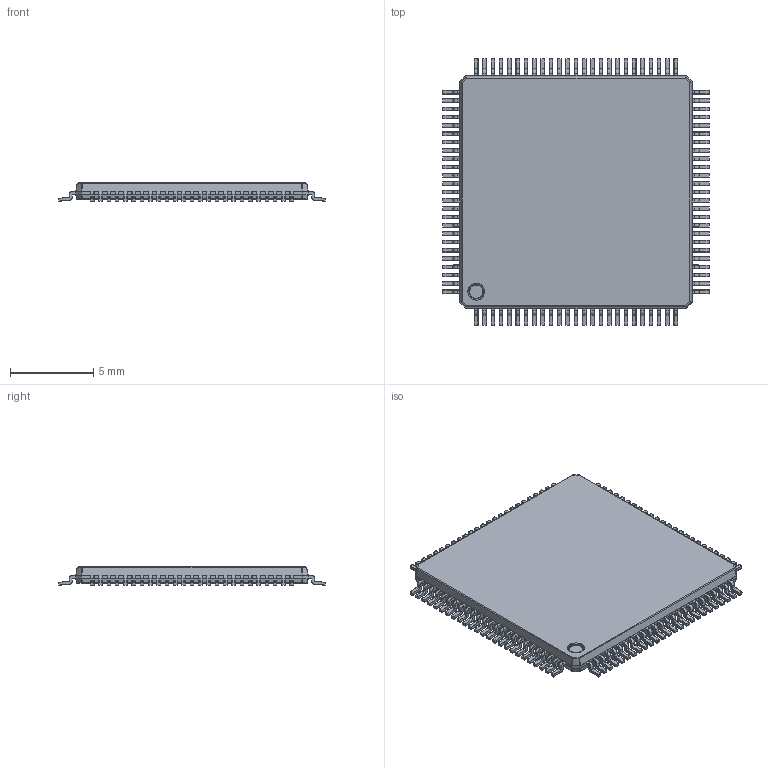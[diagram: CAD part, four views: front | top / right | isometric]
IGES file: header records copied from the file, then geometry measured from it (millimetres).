
Global section: file name: C:\Users\Mart\Documents\Libraries\3D Componenten\LQFP\TQFP 100.igs; native system: Rhinoceros ( Oct 24 2012 ); preprocessor: Trout Lake IGES 012 Oct 24 2012; date: 130421.153502; units: millimetre
Bounding box: 16.02 x 16.02 x 1.1 mm (x, y, z)
Surface area: 561.2 mm2 (no closed solid volume)
Topology: 0 solids, 0 shells, 5151 faces, 23823 edges, 23822 vertices
Faces by surface type: bspline 5151
